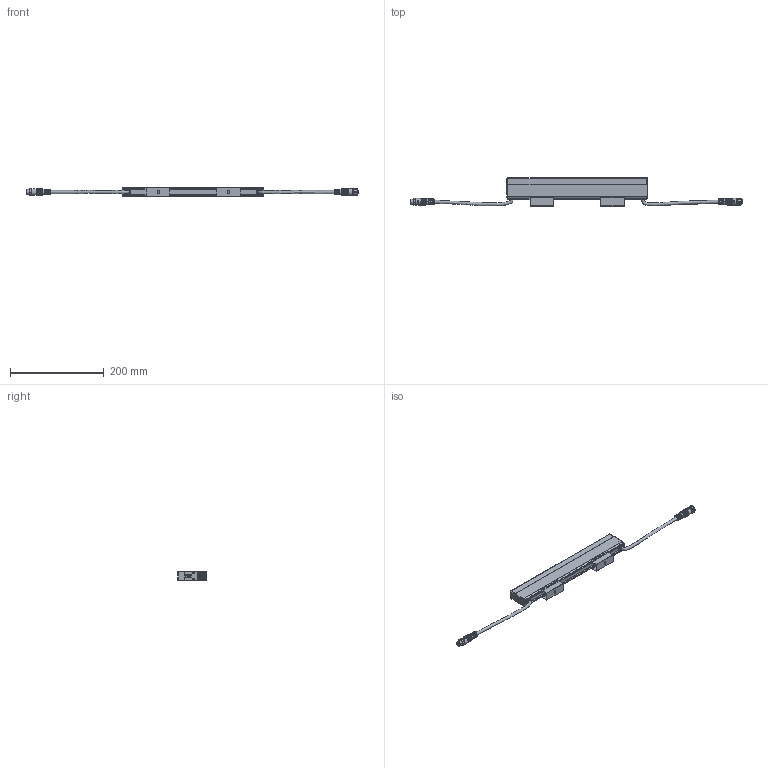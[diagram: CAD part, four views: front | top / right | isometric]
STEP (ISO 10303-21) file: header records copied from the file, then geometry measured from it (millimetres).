
FILE_DESCRIPTION (( 'STEP AP214' ), '1' );
FILE_NAME ('DiGi Linear V-Series L300 Square.STEP', '2025-07-22T11:43:11', ( '' ), ( '' ), 'SwSTEP 2.0', 'SolidWorks 2025', '' );
FILE_SCHEMA (( 'AUTOMOTIVE_DESIGN' ));
Length unit declared in the file: millimetre
Products named in the file (7): Counter sunk screw torx_M2x6; DiGi Linear V-serie - Cabling_L300; DiGi Linear V-serie - Clip; M12 3p Female; DiGi Linear V-Series L300 Square; M12 3p Male; DiGi Linear V-serie - Body_L300 Square
Assembly tree (10 placements, depth 2):
  DiGi Linear V-Series L300 Square
    DiGi Linear V-serie - Body_L300 Square
    DiGi Linear V-serie - Clip  x2
    M12 3p Male
    M12 3p Female
    DiGi Linear V-serie - Cabling_L300
    Counter sunk screw torx_M2x6  x4
Bounding box: 707.4 x 59.99 x 18.3 mm (x, y, z)
Volume: 260988.4 mm3; surface area: 70495.4 mm2
Topology: 13 solids, 13 shells, 1288 faces, 3239 edges, 2020 vertices
Faces by surface type: plane 493, cylinder 358, bspline 184, torus 161, cone 80, sphere 12
Full cylindrical faces by diameter (mm): 2 x4, 2.4 x4, 3 x4, 6.5 x6, 9.7 x1, 10 x2, 10.8 x1, 12.3 x1, 14.3 x2
Entity records: 54080 total; most frequent: CARTESIAN_POINT 17232, ORIENTED_EDGE 5846, DIRECTION 4845, EDGE_CURVE 2923, VERTEX_POINT 1836, AXIS2_PLACEMENT_3D 1823, EDGE_LOOP 1283, FACE_OUTER_BOUND 1212
